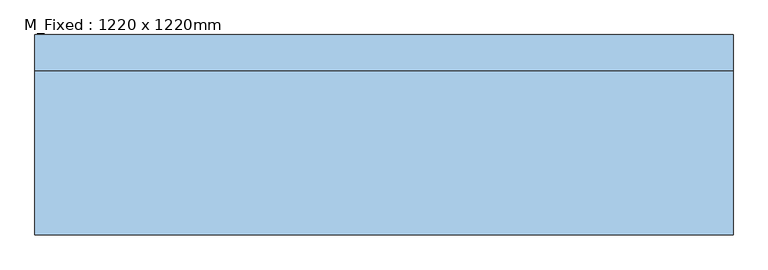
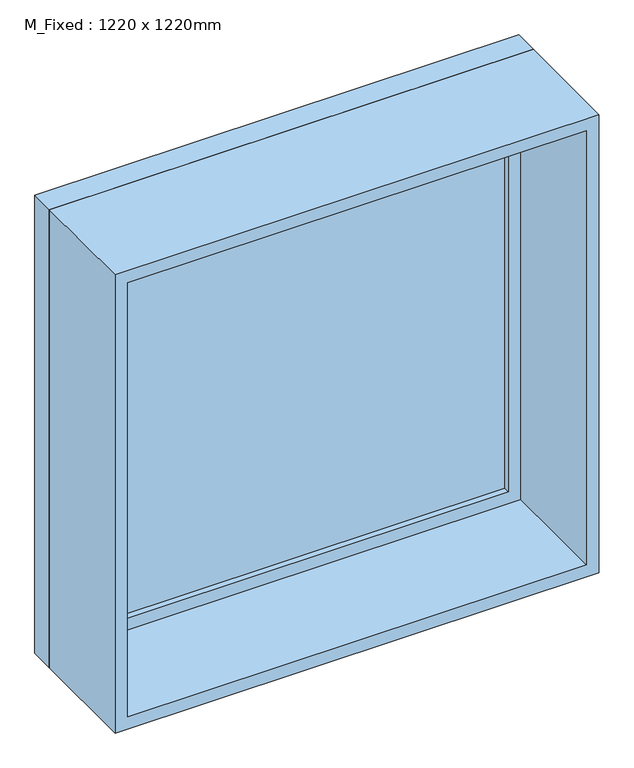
"""IFC4 building model written with IfcOpenShell, lengths in millimetres: window geometry, M_Fixed : 1220 x 1220mm."""

from ifc_helpers import new_model, si_unit, frame, origin, place, context, project, spatial, polyline, outline, extrude, source, transform, mapped, element, save


def m_fixed_1220_x_1220mm_e08ff7af(model_context):
    return source(origin(), model_context, "Body", "SweptSolid", [
        extrude(outline(polyline([(-547.0, 153.0), (547.0, 153.0), (547.0, 141.0), (-547.0, 141.0), (-547.0, 153.0)])), frame((0.0, 0.0, 978.0), z_axis=(0.0, 0.0, 1.0), x_axis=(1.0, 0.0, 0.0)), (0.0, 0.0, 1.0), 1094.0),
        extrude(outline(polyline([(2116.0, -591.0), (934.0, -591.0), (934.0, 591.0), (2116.0, 591.0), (2116.0, -591.0)]), holes=[polyline([(2072.0, -547.0), (2072.0, 547.0), (978.0, 547.0), (978.0, -547.0), (2072.0, -547.0)])]), frame((0.0, 125.0, 0.0), z_axis=(0.0, 1.0, 0.0), x_axis=(0.0, 0.0, 1.0)), (0.0, 0.0, 1.0), 44.0),
        extrude(outline(polyline([(2135.0, -610.0), (915.0, -610.0), (915.0, 610.0), (2135.0, 610.0), (2135.0, -610.0)]), holes=[polyline([(2116.0, -591.0), (2116.0, 591.0), (934.0, 591.0), (934.0, -591.0), (2116.0, -591.0)])]), frame((0.0, 125.0, 0.0), z_axis=(0.0, 1.0, 0.0), x_axis=(0.0, 0.0, 1.0)), (0.0, 0.0, 1.0), 63.0),
        extrude(outline(polyline([(2135.0, -610.0), (915.0, -610.0), (915.0, 610.0), (2135.0, 610.0), (2135.0, -610.0)]), holes=[polyline([(2103.0, -578.0), (2103.0, 578.0), (947.0, 578.0), (947.0, -578.0), (2103.0, -578.0)])]), frame((0.0, -162.0, 0.0), z_axis=(0.0, 1.0, 0.0), x_axis=(0.0, 0.0, 1.0)), (0.0, 0.0, 1.0), 287.0),
    ])


if __name__ == "__main__":
    model = new_model("IFC4")
    model_context = context("Model", 3, world=origin())
    ifc_project = project(units=[si_unit("LENGTHUNIT", "METRE", prefix="MILLI")], contexts=[model_context])
    site = spatial("IfcSite", under=ifc_project)
    building = spatial("IfcBuilding", under=site)
    placement = place(None, origin())
    m_fixed_1220_x_1220mm_shape = m_fixed_1220_x_1220mm_e08ff7af(model_context)
    element("IfcWindow", 1, ObjectType="M_Fixed : 1220 x 1220mm", at=placement, inside=building, context=model_context, shape_type="MappedRepresentation", body=[
        mapped(m_fixed_1220_x_1220mm_shape, transform((0.0, 0.0, 0.0), x_axis=(1.0, 0.0, 0.0), y_axis=(0.0, 1.0, 0.0), z_axis=(0.0, 0.0, 1.0))),
    ])
    save(model, "model.ifc")
